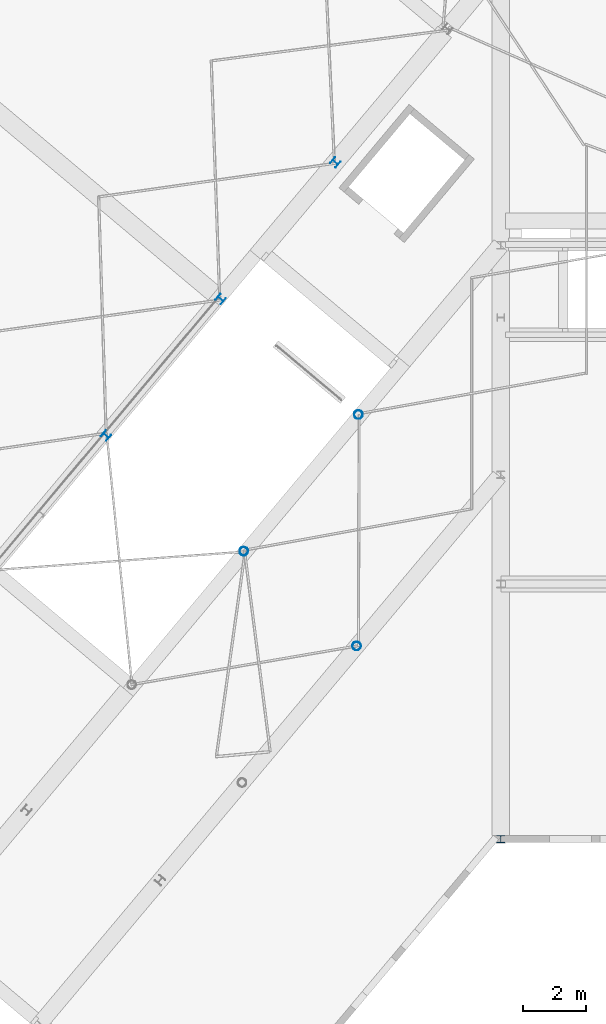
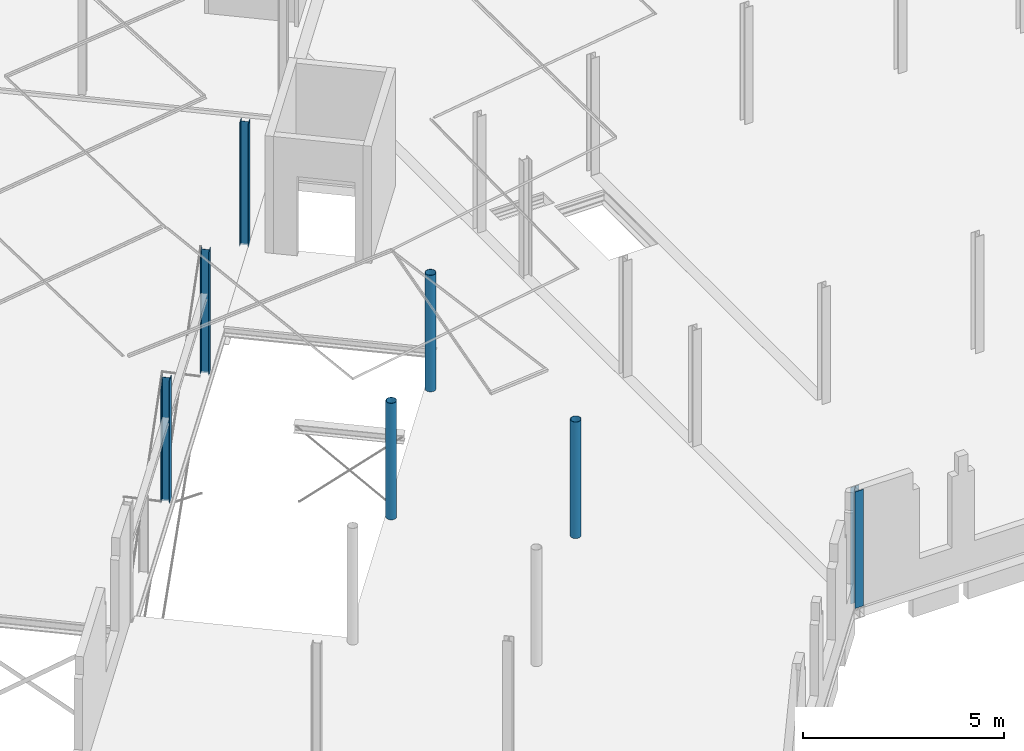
# One storey, part 3 of 25: 7 columns.
"""IFC2X3 building model written with IfcOpenShell, lengths in millimetres."""

from ifc_helpers import new_model, entity, si_unit, converted_unit, derived_unit, direction, frame, frame_2d, origin, origin_2d_with_axis, place, context, subcontext, project, spatial, hollow_circle, i_section, extrude, source, transform, mapped, material, type_object, type_shapes, element, save


model = new_model("IFC2X3")

# Units and contexts
model_context = context("Model", 3, precision=0.01, world=origin(), true_north=direction((6.123031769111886e-17, 1.0)))
body_context = subcontext(model_context, "Body", "Model", "MODEL_VIEW")
ifc_project = project(units=[si_unit("LENGTHUNIT", "METRE", prefix="MILLI"), si_unit("AREAUNIT", "SQUARE_METRE"), si_unit("VOLUMEUNIT", "CUBIC_METRE"), derived_unit("MASSDENSITYUNIT", [(si_unit("MASSUNIT", "GRAM", prefix="KILO"), 1), (si_unit("LENGTHUNIT", "METRE"), -3)]), si_unit("MASSUNIT", "GRAM", prefix="KILO"), converted_unit("PLANEANGLEUNIT", "DEGREE", entity("IfcPlaneAngleMeasure", 0.017453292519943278), si_unit("PLANEANGLEUNIT", "RADIAN"), dimensions=[0, 0, 0, 0, 0, 0, 0])], contexts=[model_context])

# Site, building, storey
site_placement = place(None, origin())
site = spatial("IfcSite", under=ifc_project, at=site_placement, Name="Default", CompositionType="ELEMENT")
building_placement = place(site_placement, origin())
building = spatial("IfcBuilding", under=site, at=building_placement, Name="AT constructie", CompositionType="ELEMENT")
storey_placement = place(building_placement, frame((0.0, 0.0, 3864.0)))
storey = spatial("IfcBuildingStorey", under=building, at=storey_placement, Name="01 eerste verdieping", CompositionType="ELEMENT", Elevation=3864.0)

# Columns
ifc_material = material(Name="h2_staal_S355")
column_type_1 = type_object("IfcColumnType", Name="kolom_gen_HEA240", PredefinedType="COLUMN", material=ifc_material)
shared_shape_1 = source(origin(), body_context, "Body", "SweptSolid", [
    extrude(i_section(OverallWidth=239.9999999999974, OverallDepth=229.99999999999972, WebThickness=7.500000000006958, FlangeThickness=11.999999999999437, FilletRadius=21.0, at=frame_2d((0.0, 2.1671553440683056e-12), x_axis=(1.0, 0.0))), frame((41146.87463111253, 11772.543508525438, 3814.0)), (0.0, 0.0, 1.0), 3529.0),
])
type_shapes(column_type_1, [shared_shape_1])
column_1_placement = place(storey_placement, frame((0.0, 0.0, -3864.0)))
element("IfcColumn", 1, at=column_1_placement, inside=storey, type_object=column_type_1, material=ifc_material, Name="NLRS_28_SC_TLB_kolom HEA_gen_AT:kolom_gen_HEA240", ObjectType="NLRS_28_SC_TLB_kolom HEA_gen_AT:kolom_gen_HEA240", context=body_context, shape_type="MappedRepresentation", body=[
    mapped(shared_shape_1, transform((0.0, 0.0, 0.0), scale=1.0)),
])
column_type_2 = type_object("IfcColumnType", Name="kolom_gen_ø273x8", PredefinedType="COLUMN", material=ifc_material)
shared_shape_2 = source(origin(), body_context, "Body", "SweptSolid", [
    extrude(hollow_circle(Radius=136.5, WallThickness=8.0, at=origin_2d_with_axis()), frame((36605.484880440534, 17864.601907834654, 3814.0), z_axis=(0.0, 0.0, 1.0), x_axis=(-0.6427876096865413, -0.7660444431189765, 0.0)), (0.0, 0.0, 1.0), 3529.0),
])
type_shapes(column_type_2, [shared_shape_2])
column_2_placement = place(storey_placement, frame((0.0, 0.0, -3864.0)))
element("IfcColumn", 2, at=column_2_placement, inside=storey, type_object=column_type_2, material=ifc_material, Name="NLRS_28_SC_TLB_kolom buis_gen_AT:kolom_gen_ø273x8", ObjectType="NLRS_28_SC_TLB_kolom buis_gen_AT:kolom_gen_ø273x8", context=body_context, shape_type="MappedRepresentation", body=[
    mapped(shared_shape_2, transform((0.0, 0.0, 0.0), scale=1.0)),
])
column_type_3 = type_object("IfcColumnType", Name="kolom_gen_HEA240", PredefinedType="COLUMN", material=ifc_material)
shared_shape_3 = source(origin(), body_context, "Body", "SweptSolid", [
    extrude(i_section(OverallWidth=240.0000000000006, OverallDepth=229.9999999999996, WebThickness=7.500000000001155, FlangeThickness=12.000000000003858, FilletRadius=21.0, at=frame_2d((1.3926637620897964e-12, -1.6555645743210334e-12), x_axis=(1.0, 0.0))), frame((28696.0760052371, 24501.38397784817, 3603.0), z_axis=(0.0, 0.0, 1.0), x_axis=(-0.6427876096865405, -0.7660444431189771, 0.0)), (0.0, 0.0, 1.0), 3744.9999999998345),
])
type_shapes(column_type_3, [shared_shape_3])
column_3_placement = place(storey_placement, frame((0.0, 0.0, -3864.0)))
element("IfcColumn", 3, at=column_3_placement, inside=storey, type_object=column_type_3, material=ifc_material, Name="NLRS_28_SC_TLB_kolom HEA_gen_AT:kolom_gen_HEA240", ObjectType="NLRS_28_SC_TLB_kolom HEA_gen_AT:kolom_gen_HEA240", context=body_context, shape_type="MappedRepresentation", body=[
    mapped(shared_shape_3, transform((0.0, 0.0, 0.0), scale=1.0)),
])
column_type_4 = type_object("IfcColumnType", Name="kolom_gen_HEA240", PredefinedType="COLUMN", material=ifc_material)
shared_shape_4 = source(origin(), body_context, "Body", "SweptSolid", [
    extrude(i_section(OverallWidth=240.0000000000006, OverallDepth=229.99999999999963, WebThickness=7.500000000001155, FlangeThickness=12.000000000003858, FilletRadius=21.0, at=frame_2d((4.177991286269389e-12, -4.973799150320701e-12), x_axis=(1.0, 0.0))), frame((32311.756309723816, 28810.383970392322, 3603.0), z_axis=(0.0, 0.0, 1.0), x_axis=(-0.6427876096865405, -0.7660444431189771, 0.0)), (0.0, 0.0, 1.0), 3744.9999999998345),
])
type_shapes(column_type_4, [shared_shape_4])
column_4_placement = place(storey_placement, frame((0.0, 0.0, -3864.0)))
element("IfcColumn", 4, at=column_4_placement, inside=storey, type_object=column_type_4, material=ifc_material, Name="NLRS_28_SC_TLB_kolom HEA_gen_AT:kolom_gen_HEA240", ObjectType="NLRS_28_SC_TLB_kolom HEA_gen_AT:kolom_gen_HEA240", context=body_context, shape_type="MappedRepresentation", body=[
    mapped(shared_shape_4, transform((0.0, 0.0, 0.0), scale=1.0)),
])
column_type_5 = type_object("IfcColumnType", Name="kolom_gen_HEA240", PredefinedType="COLUMN", material=ifc_material)
shared_shape_5 = source(origin(), body_context, "Body", "SweptSolid", [
    extrude(i_section(OverallWidth=240.0000000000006, OverallDepth=229.9999999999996, WebThickness=7.500000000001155, FlangeThickness=12.000000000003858, FilletRadius=21.0, at=frame_2d((1.3926637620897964e-12, -1.6555645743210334e-12), x_axis=(1.0, 0.0))), frame((35927.43661421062, 33119.38396293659, 3603.0), z_axis=(0.0, 0.0, 1.0), x_axis=(-0.6427876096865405, -0.7660444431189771, 0.0)), (0.0, 0.0, 1.0), 3744.9999999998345),
])
type_shapes(column_type_5, [shared_shape_5])
column_5_placement = place(storey_placement, frame((0.0, 0.0, -3864.0)))
element("IfcColumn", 5, at=column_5_placement, inside=storey, type_object=column_type_5, material=ifc_material, Name="NLRS_28_SC_TLB_kolom HEA_gen_AT:kolom_gen_HEA240", ObjectType="NLRS_28_SC_TLB_kolom HEA_gen_AT:kolom_gen_HEA240", context=body_context, shape_type="MappedRepresentation", body=[
    mapped(shared_shape_5, transform((0.0, 0.0, 0.0), scale=1.0)),
])
column_type_6 = type_object("IfcColumnType", Name="kolom_gen_ø273x8", PredefinedType="COLUMN", material=ifc_material)
shared_shape_6 = source(origin(), body_context, "Body", "SweptSolid", [
    extrude(hollow_circle(Radius=136.5, WallThickness=8.0, at=origin_2d_with_axis()), frame((33043.37821993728, 20853.56429287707, 3814.0), z_axis=(0.0, 0.0, 1.0), x_axis=(0.642787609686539, 0.7660444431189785, 0.0)), (0.0, 0.0, 1.0), 3528.999999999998),
])
type_shapes(column_type_6, [shared_shape_6])
column_6_placement = place(storey_placement, frame((0.0, 0.0, -3864.0)))
element("IfcColumn", 6, at=column_6_placement, inside=storey, type_object=column_type_6, material=ifc_material, Name="NLRS_28_SC_TLB_kolom buis_gen_AT:kolom_gen_ø273x8", ObjectType="NLRS_28_SC_TLB_kolom buis_gen_AT:kolom_gen_ø273x8", context=body_context, shape_type="MappedRepresentation", body=[
    mapped(shared_shape_6, transform((0.0, 0.0, 0.0), scale=1.0)),
])
column_type_7 = type_object("IfcColumnType", Name="kolom_gen_ø273x8", PredefinedType="COLUMN", material=ifc_material)
shared_shape_7 = source(origin(), body_context, "Body", "SweptSolid", [
    extrude(hollow_circle(Radius=136.5, WallThickness=8.0, at=origin_2d_with_axis()), frame((36659.05852442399, 25162.564285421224, 3814.0), z_axis=(0.0, 0.0, 1.0), x_axis=(0.642787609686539, 0.7660444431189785, 0.0)), (0.0, 0.0, 1.0), 3528.999999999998),
])
type_shapes(column_type_7, [shared_shape_7])
column_7_placement = place(storey_placement, frame((0.0, 0.0, -3864.0)))
element("IfcColumn", 7, at=column_7_placement, inside=storey, type_object=column_type_7, material=ifc_material, Name="NLRS_28_SC_TLB_kolom buis_gen_AT:kolom_gen_ø273x8", ObjectType="NLRS_28_SC_TLB_kolom buis_gen_AT:kolom_gen_ø273x8", context=body_context, shape_type="MappedRepresentation", body=[
    mapped(shared_shape_7, transform((0.0, 0.0, 0.0), scale=1.0)),
])

save(model, "model.ifc")
